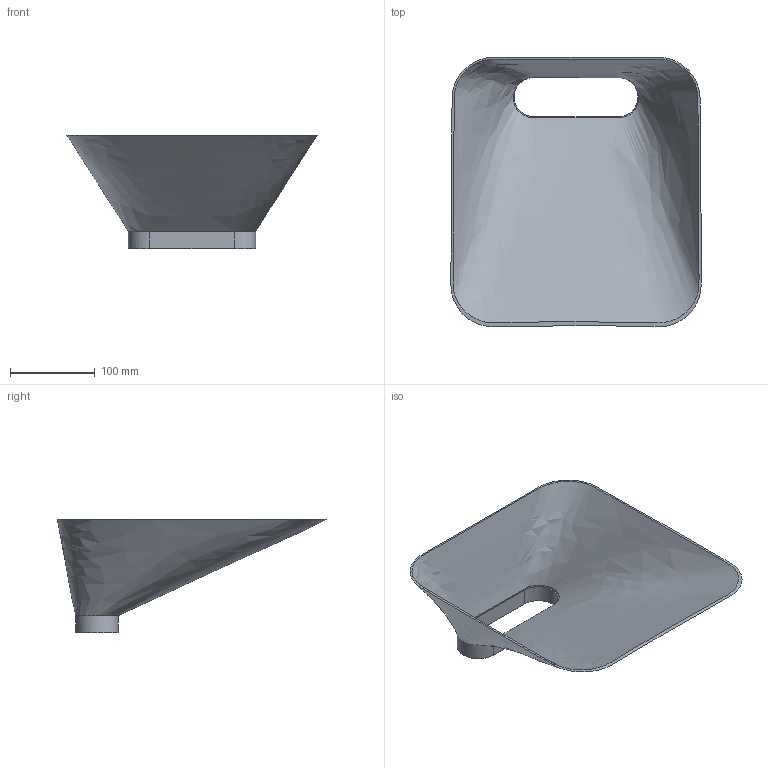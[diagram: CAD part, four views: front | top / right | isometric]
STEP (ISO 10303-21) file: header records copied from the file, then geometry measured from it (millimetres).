
FILE_DESCRIPTION(/* description */ (''),/* implementation_level */ '2;1');
FILE_NAME(/* name */ 'Hopper.step',/* time_stamp */ '2026-02-22T13:07:09+05:30',/* author */ (''),/* organization */ (''),/* preprocessor_version */ 'ST-DEVELOPER v20.1',/* originating_system */ 'Autodesk Translation Framework v14.24.0.0',/* authorisation */ '');
FILE_SCHEMA (('AUTOMOTIVE_DESIGN { 1 0 10303 214 3 1 1 }'));
Length unit declared in the file: millimetre
Products named in the file (1): Hopper
Bounding box: 294.64 x 317.39 x 133.15 mm (x, y, z)
Volume: 146169.1 mm3; surface area: 264543 mm2
Topology: 1 solids, 1 shells, 14 faces, 32 edges, 21 vertices
Faces by surface type: plane 7, cylinder 4, bspline 3
Entity records: 2626 total; most frequent: CARTESIAN_POINT 2285, ORIENTED_EDGE 64, DIRECTION 52, EDGE_CURVE 32, VERTEX_POINT 21, AXIS2_PLACEMENT_3D 18, EDGE_LOOP 17, LINE 16
